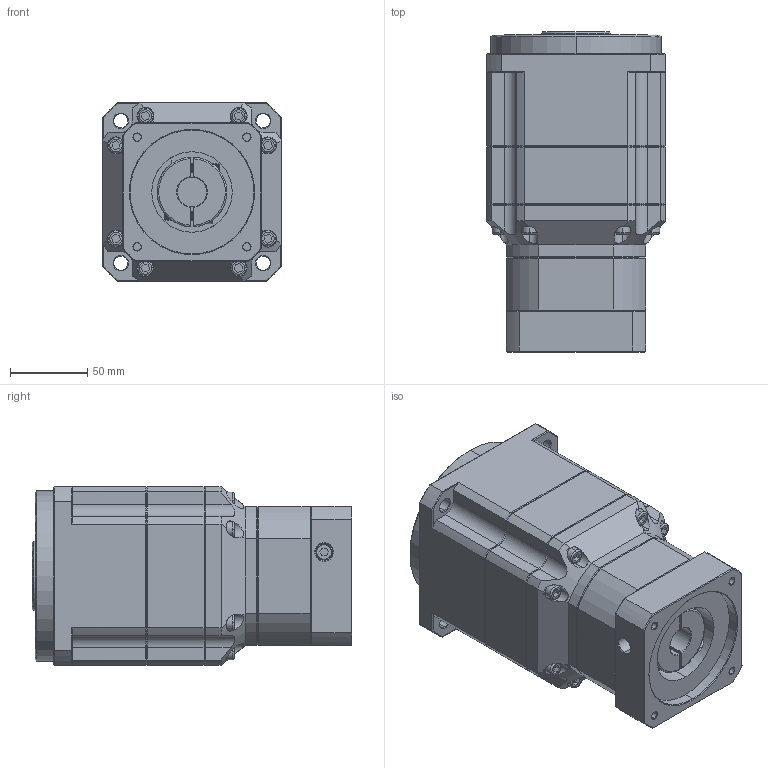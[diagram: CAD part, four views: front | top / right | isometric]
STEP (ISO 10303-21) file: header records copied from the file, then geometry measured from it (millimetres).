
FILE_DESCRIPTION (( 'STEP AP214' ), '1' );
FILE_NAME ('ZPB115-K32-L3-P1-19-80-100-M6.step', '2024-06-12T10:02:16', ( 'Windows 蚚誧' ), ( 'Organization' ), 'SwSTEP 2.0', 'SolidWorks 2016', '' );
FILE_SCHEMA (( 'AUTOMOTIVE_DESIGN' ));
Length unit declared in the file: millimetre
Products named in the file (1): ZPB115-K32-L3-P1-19-80-100-M6
Bounding box: 115 x 206.5 x 115 mm (x, y, z)
Surface area: 131742.2 mm2 (no closed solid volume)
Topology: 0 solids, 2 shells, 1806 faces, 4805 edges, 3103 vertices
Faces by surface type: plane 1049, bspline 392, cylinder 199, cone 166
Entity records: 87711 total; most frequent: CARTESIAN_POINT 38851, ORIENTED_EDGE 9608, DIRECTION 7167, EDGE_CURVE 4805, VECTOR 3227, LINE 3227, VERTEX_POINT 3103, AXIS2_PLACEMENT_3D 1970
